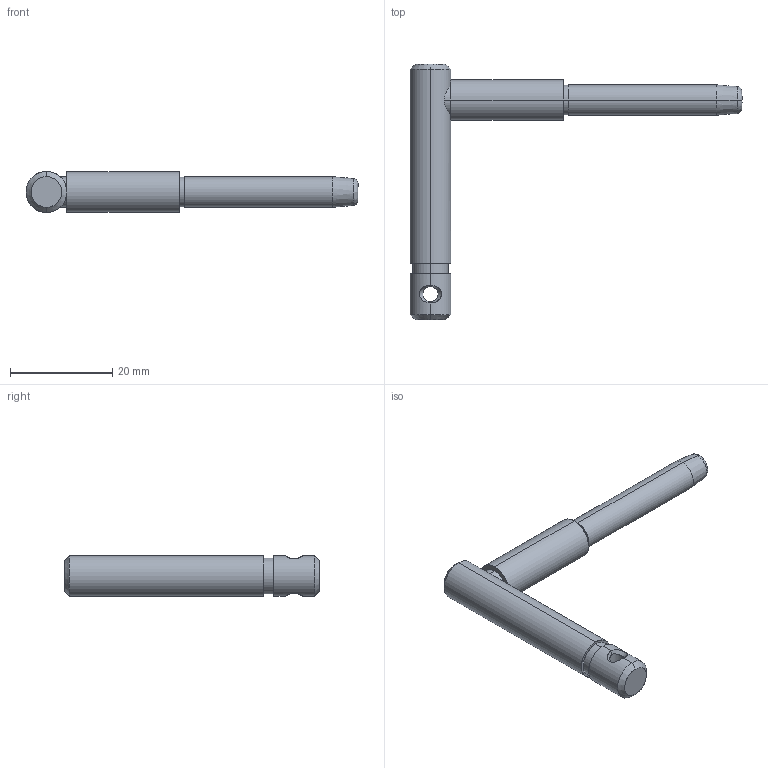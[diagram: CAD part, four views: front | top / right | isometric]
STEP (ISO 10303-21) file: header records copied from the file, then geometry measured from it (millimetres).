
FILE_DESCRIPTION (( 'STEP AP203' ), '1' );
FILE_NAME ('NS-LP-6.STEP', '2018-01-16T00:24:38', ( '' ), ( '' ), 'SwSTEP 2.0', 'SolidWorks 2013', '' );
FILE_SCHEMA (( 'CONFIG_CONTROL_DESIGN' ));
Length unit declared in the file: millimetre
Products named in the file (3): NS-LP-6_1; NS-LP-6_2; NS-LP-6
Assembly tree (2 placements, depth 2):
  NS-LP-6
    NS-LP-6_1
    NS-LP-6_2
Bounding box: 65 x 50 x 8 mm (x, y, z)
Surface area: 2820.4 mm2 (no closed solid volume)
Topology: 0 solids, 41 shells, 44 faces, 179 edges, 174 vertices
Faces by surface type: cylinder 19, plane 9, cone 8, bspline 8
Entity records: 5502 total; most frequent: CARTESIAN_POINT 3887, DIRECTION 239, ORIENTED_EDGE 180, EDGE_CURVE 177, VERTEX_POINT 174, AXIS2_PLACEMENT_3D 93, B_SPLINE_CURVE_WITH_KNOTS 72, VECTOR 53
